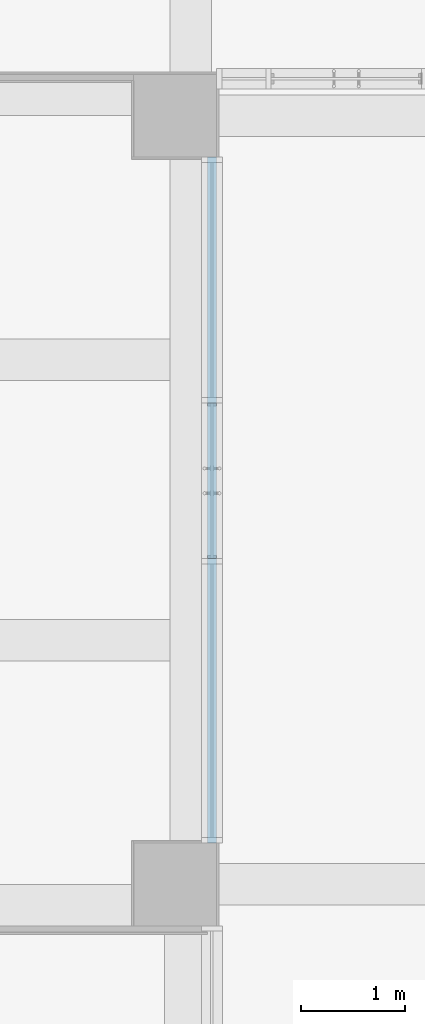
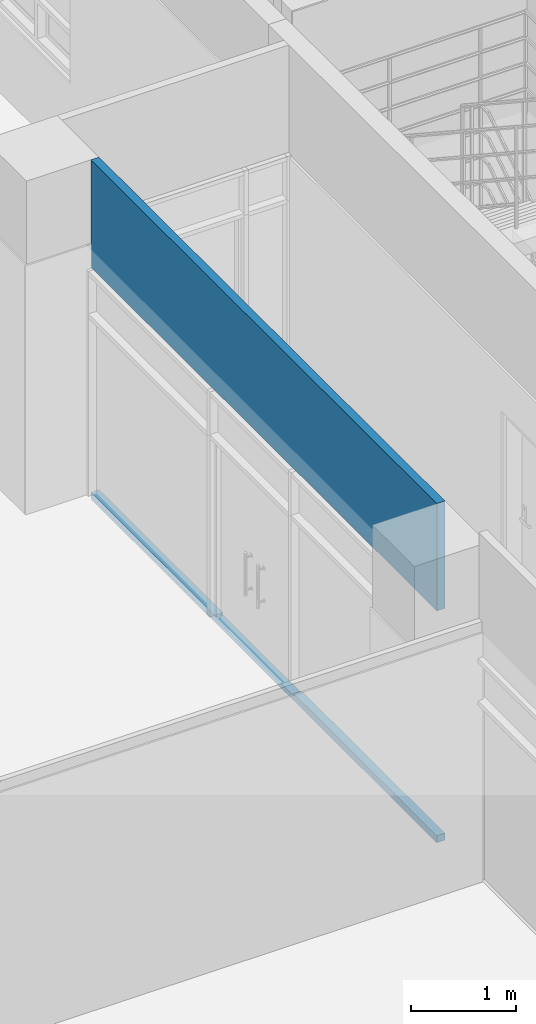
# One storey, part 51 of 81: 1 wall, 2 openings.
"""IFC2X3 building model written with IfcOpenShell, lengths in millimetres."""

from ifc_helpers import new_model, entity, si_unit, converted_unit, derived_unit, direction, frame, frame_2d, origin, place, context, subcontext, project, spatial, polyline, rectangle, outline, extrude, clip, bounded_halfspace, material, layer, layer_set, layer_usage, type_object, element, save


model = new_model("IFC2X3")

# Units and contexts
model_context = context("Model", 3, precision=0.01, world=origin(), true_north=direction((6.123031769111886e-17, 1.0)))
body_context = subcontext(model_context, "Body", "Model", "MODEL_VIEW")
ifc_project = project(units=[si_unit("LENGTHUNIT", "METRE", prefix="MILLI"), si_unit("AREAUNIT", "SQUARE_METRE"), si_unit("VOLUMEUNIT", "CUBIC_METRE"), converted_unit("PLANEANGLEUNIT", "DEGREE", entity("IfcRatioMeasure", 0.017453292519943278), si_unit("PLANEANGLEUNIT", "RADIAN"), dimensions=[0, 0, 0, 0, 0, 0, 0]), si_unit("MASSUNIT", "GRAM", prefix="KILO"), derived_unit("MASSDENSITYUNIT", [(si_unit("MASSUNIT", "GRAM", prefix="KILO"), 1), (si_unit("LENGTHUNIT", "METRE"), -3)]), derived_unit("MOMENTOFINERTIAUNIT", [(si_unit("LENGTHUNIT", "METRE"), 4)]), si_unit("TIMEUNIT", "SECOND"), si_unit("FREQUENCYUNIT", "HERTZ"), si_unit("THERMODYNAMICTEMPERATUREUNIT", "DEGREE_CELSIUS"), derived_unit("THERMALTRANSMITTANCEUNIT", [(si_unit("MASSUNIT", "GRAM", prefix="KILO"), 1), (si_unit("THERMODYNAMICTEMPERATUREUNIT", "KELVIN"), -1), (si_unit("TIMEUNIT", "SECOND"), -3)]), derived_unit("VOLUMETRICFLOWRATEUNIT", [(si_unit("LENGTHUNIT", "METRE"), 3), (si_unit("TIMEUNIT", "SECOND"), -1)]), derived_unit("MASSFLOWRATEUNIT", [(si_unit("MASSUNIT", "GRAM", prefix="KILO"), 1), (si_unit("TIMEUNIT", "SECOND"), -1)]), derived_unit("ROTATIONALFREQUENCYUNIT", [(si_unit("TIMEUNIT", "SECOND"), -1)]), si_unit("ELECTRICCURRENTUNIT", "AMPERE"), si_unit("ELECTRICVOLTAGEUNIT", "VOLT"), si_unit("POWERUNIT", "WATT"), si_unit("FORCEUNIT", "NEWTON", prefix="KILO"), si_unit("ILLUMINANCEUNIT", "LUX"), si_unit("LUMINOUSFLUXUNIT", "LUMEN"), si_unit("LUMINOUSINTENSITYUNIT", "CANDELA"), derived_unit("USERDEFINED", [(si_unit("MASSUNIT", "GRAM", prefix="KILO"), -1), (si_unit("LENGTHUNIT", "METRE"), -2), (si_unit("TIMEUNIT", "SECOND"), 3), (si_unit("LUMINOUSFLUXUNIT", "LUMEN"), 1)]), derived_unit("SOUNDPOWERUNIT", [(si_unit("MASSUNIT", "GRAM", prefix="KILO"), 1), (si_unit("LENGTHUNIT", "METRE"), 2), (si_unit("TIMEUNIT", "SECOND"), -3)]), derived_unit("SOUNDPRESSUREUNIT", [(si_unit("MASSUNIT", "GRAM", prefix="KILO"), 1), (si_unit("LENGTHUNIT", "METRE"), -1), (si_unit("TIMEUNIT", "SECOND"), -2)]), derived_unit("LINEARVELOCITYUNIT", [(si_unit("LENGTHUNIT", "METRE"), 1), (si_unit("TIMEUNIT", "SECOND"), -1)]), si_unit("PRESSUREUNIT", "PASCAL"), derived_unit("USERDEFINED", [(si_unit("LENGTHUNIT", "METRE"), -2), (si_unit("MASSUNIT", "GRAM", prefix="KILO"), 1), (si_unit("TIMEUNIT", "SECOND"), -2)]), derived_unit("LINEARFORCEUNIT", [(si_unit("MASSUNIT", "GRAM", prefix="KILO"), 1), (si_unit("LENGTHUNIT", "METRE"), 1), (si_unit("TIMEUNIT", "SECOND"), -2), (si_unit("LENGTHUNIT", "METRE"), -1)]), derived_unit("PLANARFORCEUNIT", [(si_unit("MASSUNIT", "GRAM", prefix="KILO"), 1), (si_unit("LENGTHUNIT", "METRE"), 1), (si_unit("TIMEUNIT", "SECOND"), -2), (si_unit("LENGTHUNIT", "METRE"), -2)])], contexts=[model_context])

# Site, building, storey
site_placement = place(None, frame((-14167.972527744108, -657.2125860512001, 0.0)))
site = spatial("IfcSite", under=ifc_project, at=site_placement, Name="Default", CompositionType="ELEMENT")
building_placement = place(site_placement, origin())
building = spatial("IfcBuilding", under=site, at=building_placement, Name="Sample Building", CompositionType="ELEMENT")
storey_placement = place(building_placement, frame((0.0, 0.0, 13400.0)))
storey = spatial("IfcBuildingStorey", under=building, at=storey_placement, Name="지상 4층", CompositionType="ELEMENT", Elevation=13400.00000000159)

# Wall, openings
ifc_material = material(Name="KBIMS-시멘트 벽돌")
ifc_layer = layer(ifc_material, 90.0)
ifc_layer_set = layer_set([ifc_layer], Name="기본 벽:WA211-시멘트벽돌(일반) 벽 (0.5B) 90mm")
ifc_layer_usage = layer_usage(ifc_layer_set, "AXIS2", "NEGATIVE", 45.0)
wall_type = type_object("IfcWallType", Name="기본 벽:WA211-시멘트벽돌(일반) 벽 (0.5B) 90mm", PredefinedType="STANDARD", material=ifc_layer_set)
wall_placement = place(storey_placement, frame((27523.086972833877, 26957.21230799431, 0.0), z_axis=(0.0, 0.0, 1.0), x_axis=(0.0, -1.0, 0.0)))
wall = element("IfcWallStandardCase", 1, at=wall_placement, inside=storey, type_object=wall_type, material=ifc_layer_usage, Name="기본 벽:WA211-시멘트벽돌(일반) 벽 (0.5B) 90mm", ObjectType="기본 벽:WA211-시멘트벽돌(일반) 벽 (0.5B) 90mm", context=body_context, shape_type="Clipping", body=[
    clip(extrude(rectangle(XDim=6599.999999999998, YDim=90.0000000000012, at=frame_2d((3299.999999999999, -1.9682033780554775e-12), x_axis=(-1.0, 0.0))), origin(), (0.0, 0.0, 1.0), 3950.0000000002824), bounded_halfspace(frame((0.0, -45.0, 3950.0), z_axis=(0.0, 0.0, -1.0), x_axis=(0.0, 1.0, 0.0)), True, frame((0.0, -45.0, 3950.0), z_axis=(0.0, 0.0, -1.0), x_axis=(0.0, 1.0, 0.0)), polyline([(0.0, 0.0), (27432.0, 0.0), (27432.0, 2011680.0), (-2.6400300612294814e-09, 2011680.0), (0.0, 0.0)]))),
])
opening_1_placement = place(wall_placement, origin())
element("IfcOpeningElement", 2, at=opening_1_placement, cuts=wall, Name="기본 벽:WA211-시멘트벽돌(일반) 벽 (0.5B) 90mm", ObjectType="Opening", context=body_context, shape_type="SweptSolid", body=[
    extrude(outline(polyline([(-1446.2500000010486, -3392.4999999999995), (1173.749999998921, -3392.4999999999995), (1173.749999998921, -657.4999999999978), (-901.2499999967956, -657.4999999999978), (-901.2499999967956, 842.4999999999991), (1173.749999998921, 842.4999999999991), (1173.749999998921, 3207.4999999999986), (-1446.2500000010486, 3207.4999999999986), (-1446.2500000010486, -3392.4999999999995)])), frame((3207.4999999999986, -197.40000000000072, 1253.7499999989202), z_axis=(0.0, 1.0, 0.0), x_axis=(0.0, 0.0, -1.0)), (0.0, 0.0, 1.0), 394.8000000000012),
])
opening_2_placement = place(wall_placement, frame((2365.0, -45.0, 55.0)))
element("IfcOpeningElement", 3, at=opening_2_placement, cuts=wall, Name="DR121-쌍여닫이문(철재, 일반, 양개):DR121-쌍여닫이문(유리, 일반, 양개) 1500x2100mm:1", ObjectType="Opening", context=body_context, shape_type="SweptSolid", body=[
    extrude(rectangle(XDim=2099.9999999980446, YDim=1500.0, at=frame_2d((1049.9999999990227, 750.0), x_axis=(1.0, 0.0))), frame((0.0, 0.0, 0.0), z_axis=(0.0, 1.0, 0.0), x_axis=(0.0, 0.0, 1.0)), (0.0, 0.0, 1.0), 90.0),
])

save(model, "model.ifc")
